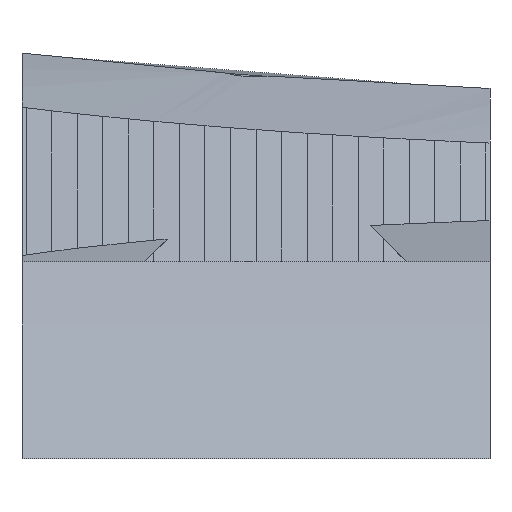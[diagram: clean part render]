
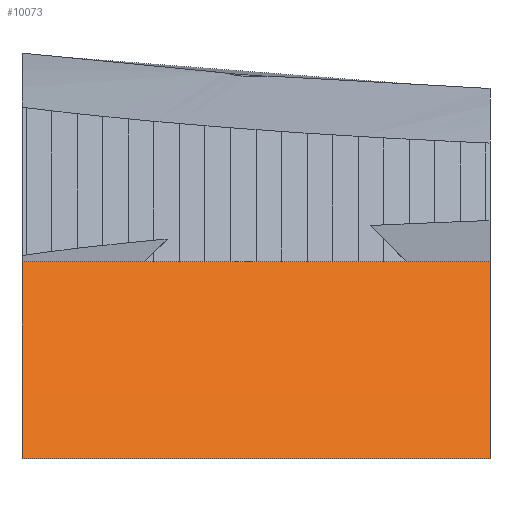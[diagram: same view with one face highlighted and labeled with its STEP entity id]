
A CAD part, front view. The second image highlights one B-rep face of the part: STEP entity #10073.
In plain terms, the highlighted cylindrical face has radius 18.85 mm (diameter 37.7 mm), a partial arc.
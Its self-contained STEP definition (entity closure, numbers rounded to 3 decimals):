
#51 = PLANE('',#52);
#52 = AXIS2_PLACEMENT_3D('',#53,#54,#55);
#53 = CARTESIAN_POINT('',(256.,-19.,10.5));
#54 = DIRECTION('',(1.,0.,-0.));
#55 = DIRECTION('',(0.,0.,1.));
#865 = VERTEX_POINT('',#866);
#866 = CARTESIAN_POINT('',(256.,-13.45,13.207));
#880 = PLANE('',#881);
#881 = AXIS2_PLACEMENT_3D('',#882,#883,#884);
#882 = CARTESIAN_POINT('',(255.273,-13.45,18.126));
#883 = DIRECTION('',(0.,1.,0.));
#884 = DIRECTION('',(0.,0.,1.)
  );
#892 = EDGE_CURVE('',#893,#865,#895,.T.);
#893 = VERTEX_POINT('',#894);
#894 = CARTESIAN_POINT('',(256.,-16.563,9.));
#895 = SURFACE_CURVE('',#896,(#901,#912),.PCURVE_S1.);
#896 = CIRCLE('',#897,18.85);
#897 = AXIS2_PLACEMENT_3D('',#898,#899,#900);
#898 = CARTESIAN_POINT('',(256.,0.,0.));
#899 = DIRECTION('',(-1.,0.,0.));
#900 = DIRECTION('',(0.,-0.879,0.477));
#901 = PCURVE('',#51,#902);
#902 = DEFINITIONAL_REPRESENTATION('',(#903),#911);
#903 = ( BOUNDED_CURVE() B_SPLINE_CURVE(2,(#904,#905,#906,#907,#908,#909
,#910),.UNSPECIFIED.,.T.,.F.) B_SPLINE_CURVE_WITH_KNOTS((1,2,2,2,2,1),(
    -2.094,0.,2.094,4.189,6.283,
8.378),.UNSPECIFIED.) CURVE() GEOMETRIC_REPRESENTATION_ITEM() 
RATIONAL_B_SPLINE_CURVE((1.,0.5,1.,0.5,1.,0.5,1.)) REPRESENTATION_ITEM(
  '') );
#904 = CARTESIAN_POINT('',(-1.5,-2.437));
#905 = CARTESIAN_POINT('',(27.187,-18.026));
#906 = CARTESIAN_POINT('',(-0.656,-35.076));
#907 = CARTESIAN_POINT('',(-28.5,-52.125));
#908 = CARTESIAN_POINT('',(-29.344,-19.487));
#909 = CARTESIAN_POINT('',(-30.187,13.151));
#910 = CARTESIAN_POINT('',(-1.5,-2.437));
#911 = ( GEOMETRIC_REPRESENTATION_CONTEXT(2) 
PARAMETRIC_REPRESENTATION_CONTEXT() REPRESENTATION_CONTEXT('2D SPACE',''
  ) );
#912 = PCURVE('',#913,#918);
#913 = CYLINDRICAL_SURFACE('',#914,18.85);
#914 = AXIS2_PLACEMENT_3D('',#915,#916,#917);
#915 = CARTESIAN_POINT('',(251.,0.,0.));
#916 = DIRECTION('',(1.,0.,0.));
#917 = DIRECTION('',(-0.,0.,1.));
#918 = DEFINITIONAL_REPRESENTATION('',(#919),#923);
#919 = LINE('',#920,#921);
#920 = CARTESIAN_POINT('',(1.073,5.));
#921 = VECTOR('',#922,1.);
#922 = DIRECTION('',(-1.,-0.));
#923 = ( GEOMETRIC_REPRESENTATION_CONTEXT(2) 
PARAMETRIC_REPRESENTATION_CONTEXT() REPRESENTATION_CONTEXT('2D SPACE',''
  ) );
#941 = PLANE('',#942);
#942 = AXIS2_PLACEMENT_3D('',#943,#944,#945);
#943 = CARTESIAN_POINT('',(256.,-19.,9.));
#944 = DIRECTION('',(0.,0.,1.));
#945 = DIRECTION('',(1.,0.,-0.));
#1427 = PLANE('',#1428);
#1428 = AXIS2_PLACEMENT_3D('',#1429,#1430,#1431);
#1429 = CARTESIAN_POINT('',(266.,-19.,10.5));
#1430 = DIRECTION('',(1.,0.,-0.));
#1431 = DIRECTION('',(0.,0.,1.));
#2655 = VERTEX_POINT('',#2656);
#2656 = CARTESIAN_POINT('',(266.,-13.45,13.207));
#2677 = EDGE_CURVE('',#2678,#2655,#2680,.T.);
#2678 = VERTEX_POINT('',#2679);
#2679 = CARTESIAN_POINT('',(266.,-16.563,9.));
#2680 = SURFACE_CURVE('',#2681,(#2686,#2697),.PCURVE_S1.);
#2681 = CIRCLE('',#2682,18.85);
#2682 = AXIS2_PLACEMENT_3D('',#2683,#2684,#2685);
#2683 = CARTESIAN_POINT('',(266.,0.,0.));
#2684 = DIRECTION('',(-1.,0.,0.));
#2685 = DIRECTION('',(0.,-0.879,0.477));
#2686 = PCURVE('',#1427,#2687);
#2687 = DEFINITIONAL_REPRESENTATION('',(#2688),#2696);
#2688 = ( BOUNDED_CURVE() B_SPLINE_CURVE(2,(#2689,#2690,#2691,#2692,
#2693,#2694,#2695),.UNSPECIFIED.,.T.,.F.) B_SPLINE_CURVE_WITH_KNOTS((1,2
    ,2,2,2,1),(-2.094,0.,2.094,4.189,
6.283,8.378),.UNSPECIFIED.) CURVE() 
GEOMETRIC_REPRESENTATION_ITEM() RATIONAL_B_SPLINE_CURVE((1.,0.5,1.,0.5,
1.,0.5,1.)) REPRESENTATION_ITEM('') );
#2689 = CARTESIAN_POINT('',(-1.5,-2.437));
#2690 = CARTESIAN_POINT('',(27.187,-18.026));
#2691 = CARTESIAN_POINT('',(-0.656,-35.076));
#2692 = CARTESIAN_POINT('',(-28.5,-52.125));
#2693 = CARTESIAN_POINT('',(-29.344,-19.487));
#2694 = CARTESIAN_POINT('',(-30.187,13.151));
#2695 = CARTESIAN_POINT('',(-1.5,-2.437));
#2696 = ( GEOMETRIC_REPRESENTATION_CONTEXT(2) 
PARAMETRIC_REPRESENTATION_CONTEXT() REPRESENTATION_CONTEXT('2D SPACE',''
  ) );
#2697 = PCURVE('',#913,#2698);
#2698 = DEFINITIONAL_REPRESENTATION('',(#2699),#2703);
#2699 = LINE('',#2700,#2701);
#2700 = CARTESIAN_POINT('',(1.073,15.));
#2701 = VECTOR('',#2702,1.);
#2702 = DIRECTION('',(-1.,-0.));
#2703 = ( GEOMETRIC_REPRESENTATION_CONTEXT(2) 
PARAMETRIC_REPRESENTATION_CONTEXT() REPRESENTATION_CONTEXT('2D SPACE',''
  ) );
#10053 = EDGE_CURVE('',#893,#2678,#10054,.T.);
#10054 = SURFACE_CURVE('',#10055,(#10059,#10065),.PCURVE_S1.);
#10055 = LINE('',#10056,#10057);
#10056 = CARTESIAN_POINT('',(251.,-16.563,9.));
#10057 = VECTOR('',#10058,1.);
#10058 = DIRECTION('',(1.,0.,0.));
#10059 = PCURVE('',#941,#10060);
#10060 = DEFINITIONAL_REPRESENTATION('',(#10061),#10064);
#10061 = B_SPLINE_CURVE_WITH_KNOTS('',1,(#10062,#10063),.UNSPECIFIED.,
  .F.,.F.,(2,2),(4.,16.),.PIECEWISE_BEZIER_KNOTS.);
#10062 = CARTESIAN_POINT('',(-1.,2.437));
#10063 = CARTESIAN_POINT('',(11.,2.437));
#10064 = ( GEOMETRIC_REPRESENTATION_CONTEXT(2) 
PARAMETRIC_REPRESENTATION_CONTEXT() REPRESENTATION_CONTEXT('2D SPACE',''
  ) );
#10065 = PCURVE('',#913,#10066);
#10066 = DEFINITIONAL_REPRESENTATION('',(#10067),#10070);
#10067 = B_SPLINE_CURVE_WITH_KNOTS('',1,(#10068,#10069),.UNSPECIFIED.,
  .F.,.F.,(2,2),(4.,16.),.PIECEWISE_BEZIER_KNOTS.);
#10068 = CARTESIAN_POINT('',(1.073,4.));
#10069 = CARTESIAN_POINT('',(1.073,16.));
#10070 = ( GEOMETRIC_REPRESENTATION_CONTEXT(2) 
PARAMETRIC_REPRESENTATION_CONTEXT() REPRESENTATION_CONTEXT('2D SPACE',''
  ) );
#10073 = ADVANCED_FACE('',(#10074),#913,.T.);
#10074 = FACE_BOUND('',#10075,.T.);
#10075 = EDGE_LOOP('',(#10076,#10077,#10096,#10097));
#10076 = ORIENTED_EDGE('',*,*,#2677,.T.);
#10077 = ORIENTED_EDGE('',*,*,#10078,.F.);
#10078 = EDGE_CURVE('',#865,#2655,#10079,.T.);
#10079 = SURFACE_CURVE('',#10080,(#10084,#10090),.PCURVE_S1.);
#10080 = LINE('',#10081,#10082);
#10081 = CARTESIAN_POINT('',(251.,-13.45,13.207));
#10082 = VECTOR('',#10083,1.);
#10083 = DIRECTION('',(1.,0.,0.));
#10084 = PCURVE('',#913,#10085);
#10085 = DEFINITIONAL_REPRESENTATION('',(#10086),#10089);
#10086 = B_SPLINE_CURVE_WITH_KNOTS('',1,(#10087,#10088),.UNSPECIFIED.,
  .F.,.F.,(2,2),(5.,15.),.PIECEWISE_BEZIER_KNOTS.);
#10087 = CARTESIAN_POINT('',(0.795,5.));
#10088 = CARTESIAN_POINT('',(0.795,15.));
#10089 = ( GEOMETRIC_REPRESENTATION_CONTEXT(2) 
PARAMETRIC_REPRESENTATION_CONTEXT() REPRESENTATION_CONTEXT('2D SPACE',''
  ) );
#10090 = PCURVE('',#880,#10091);
#10091 = DEFINITIONAL_REPRESENTATION('',(#10092),#10095);
#10092 = B_SPLINE_CURVE_WITH_KNOTS('',1,(#10093,#10094),.UNSPECIFIED.,
  .F.,.F.,(2,2),(5.,15.),.PIECEWISE_BEZIER_KNOTS.);
#10093 = CARTESIAN_POINT('',(-4.919,0.727));
#10094 = CARTESIAN_POINT('',(-4.919,10.727));
#10095 = ( GEOMETRIC_REPRESENTATION_CONTEXT(2) 
PARAMETRIC_REPRESENTATION_CONTEXT() REPRESENTATION_CONTEXT('2D SPACE',''
  ) );
#10096 = ORIENTED_EDGE('',*,*,#892,.F.);
#10097 = ORIENTED_EDGE('',*,*,#10053,.T.);
